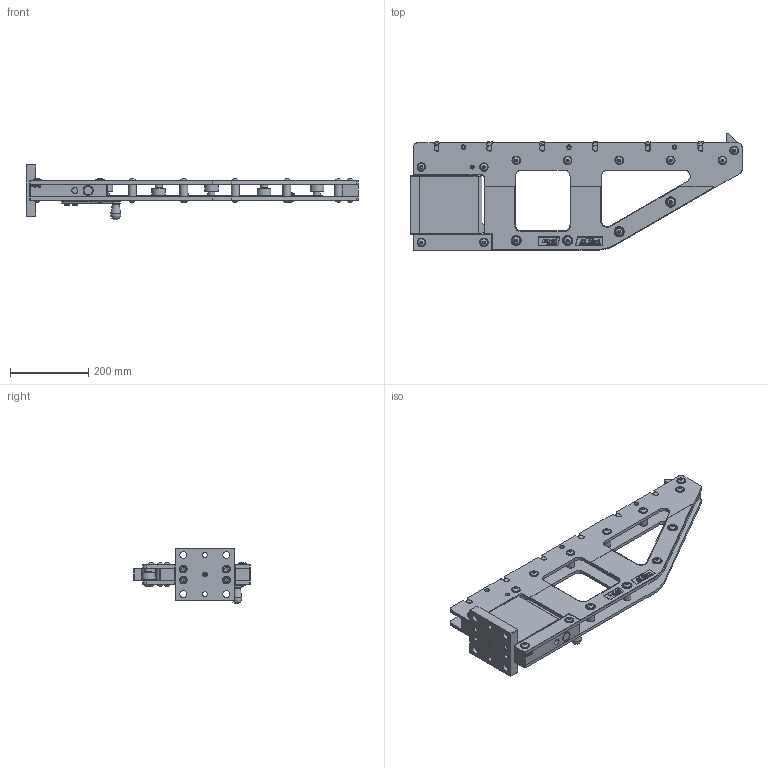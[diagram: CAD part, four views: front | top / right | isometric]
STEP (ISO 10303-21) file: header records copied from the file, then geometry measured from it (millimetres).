
FILE_DESCRIPTION(/* description */ ('CONSOLE PLATE RIGHT'),/* implementation_level */ '2;1');
FILE_NAME(/* name */ 'C:\Users\jaccow\AppData\Local\Temp\Cadac\NetworkPub\step\FB671-950.iam.stp',/* time_stamp */ '2017-12-14T12:40:04+01:00',/* author */ ('Yue'),/* organization */ (''),/* preprocessor_version */ 'ST-DEVELOPER v16.1',/* originating_system */ 'Autodesk Inventor 2016',/* authorisation */ '');
FILE_SCHEMA (('AUTOMOTIVE_DESIGN { 1 0 10303 214 3 1 1 }'));
Products named in the file (35): FB675-101; FB622-186; CCE1020-028-9A; FB832-690; FB676-690; FB620-044; FB621-104; FB627-104; DQ1504-281; FB662-101; CAE1100-1081A; DQ1397-120; FB853-026; FB854-026; FB828-298; FB673-950; FB643-101; FB642-690; CCA1227-0281A; FB633-061; FB632-070; PP0306-070; CBA821-0281B; CAA1233-0612C; PP0307-155; PP0308-155; PP0309-110; PP0377-130; PP0304-108; PP0378-108; FB641-950; PP0311-071; FB678-104; CCA615-0285C; FB671-950
Assembly tree (99 placements, depth 3):
  FB671-950
    FB673-950
      FB675-101  x2
      FB622-186  x9
      CCE1020-028-9A  x31
      FB832-690
      FB676-690
      FB620-044
      FB621-104  x5
      FB627-104  x6
      DQ1504-281  x6
      FB662-101
      CAE1100-1081A  x3
      DQ1397-120  x3
      FB853-026
      FB854-026
      FB828-298
    FB641-950
      FB643-101
      FB642-690
      CCA1227-0281A  x4
      FB633-061
      FB632-070
      PP0306-070
      CBA821-0281B
      CAA1233-0612C
      PP0307-155  x2
      PP0308-155
      PP0309-110
      PP0377-130  x2
      PP0304-108  x2
      PP0378-108  x2
    PP0311-071
    FB678-104
    CCA615-0285C  x2
Bounding box: 849 x 298.57 x 142.5 mm (x, y, z)
Volume: 4651557.5 mm3; surface area: 1288987.8 mm2
Topology: 122 solids, 122 shells, 4204 faces, 10207 edges, 6644 vertices
Faces by surface type: plane 2310, bspline 908, cylinder 479, cone 392, torus 114, sphere 1
Full cylindrical faces by diameter (mm): 1.215 x6, 2.4 x6, 3 x1, 4.773 x2, 4.917 x4, 4.918 x1, 6 x4, 6.4 x1, 6.647 x1, 7.42 x2, 8 x5, 8.1 x1, 8.376 x17, 8.4 x4, 8.5 x1, 10 x52, 10.106 x4, 10.5 x3, 11 x3, 11.5 x8, 12 x6, 12.1 x3, 13 x2, 13.5 x4, 15 x14, 15.425 x1, 15.95 x5, 16 x15, 16.1 x1, 17 x2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
Entity records: 99061 total; most frequent: CARTESIAN_POINT 30425, ORIENTED_EDGE 14832, DIRECTION 10504, EDGE_CURVE 7407, LINE 5056, VECTOR 5056, VERTEX_POINT 5038, EDGE_LOOP 3570
